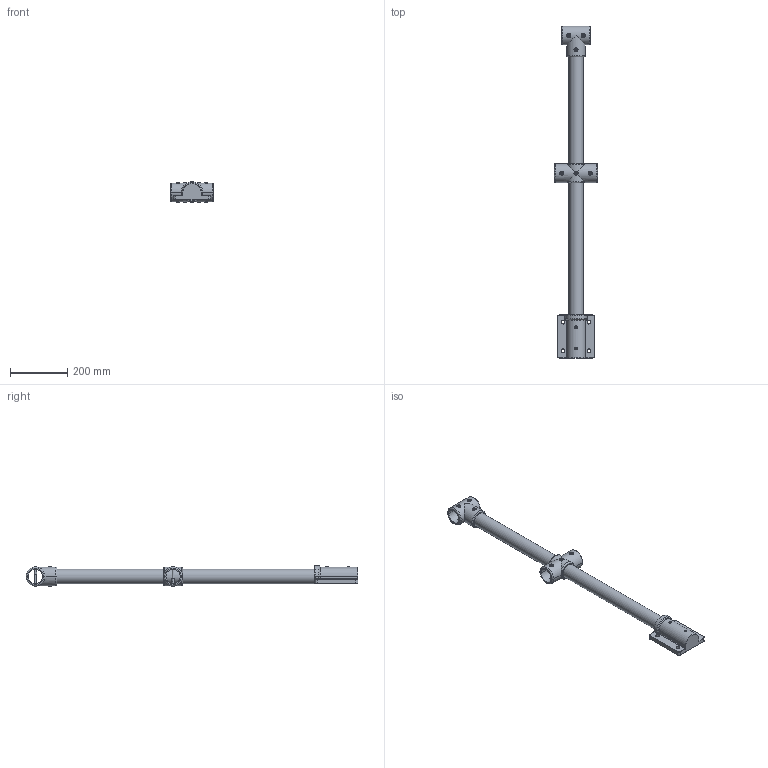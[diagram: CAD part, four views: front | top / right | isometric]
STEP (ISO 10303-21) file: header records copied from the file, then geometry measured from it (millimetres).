
FILE_DESCRIPTION(/* description */ (''),/* implementation_level */ '2;1');
FILE_NAME(/* name */ 'W:\8 Drafting Support\3 Product Drawings\Handrails\3D Models\MHST-03\MHST-03.stp',/* time_stamp */ '2025-03-11T12:06:32+10:00',/* author */ ('Callum'),/* organization */ (''),/* preprocessor_version */ 'ST-DEVELOPER v18.1',/* originating_system */ 'Autodesk Inventor 2022',/* authorisation */ '');
FILE_SCHEMA (('AUTOMOTIVE_DESIGN { 1 0 10303 214 3 1 1 }'));
Length unit declared in the file: millimetre
Products named in the file (14): MHST-03; MHST-03 BASE SKETCH; MH1-Wall Mount-Y; MHST-03-SN; MH3-W CROSS_PH01; MH3-W CROSS; MH3-Wcross connector 1; MH4-CONNECT_PH01; MH4-CONNECT; MH3-Wcross connector; MHR- M6-304; M6x8 Barrel Nut; M6x50 Soc Head Screw; 10G x 22
Assembly tree (21 placements, depth 4):
  MHST-03
    MHST-03 BASE SKETCH
    MH1-Wall Mount-Y
    MHST-03-SN
    MH3-W CROSS_PH01
      MH3-W CROSS
        MH3-Wcross connector 1  x2
      MHR- M6-304  x3
        M6x8 Barrel Nut
        M6x50 Soc Head Screw
    MH4-CONNECT_PH01
      MH4-CONNECT
        MH3-Wcross connector  x2
      MHR- M6-304  x3
        M6x8 Barrel Nut
        M6x50 Soc Head Screw
    10G x 22  x2
Bounding box: 150 x 1158 x 71.5 mm (x, y, z)
Volume: 1495937 mm3; surface area: 517116.4 mm2
Topology: 20 solids, 20 shells, 509 faces, 1235 edges, 815 vertices
Faces by surface type: plane 226, cylinder 168, torus 57, cone 36, bspline 20, sphere 2
Full cylindrical faces by diameter (mm): 3 x14, 3.75 x2, 4.75 x6, 5 x6, 6 x6, 8 x6, 8.5 x12, 9.3 x2, 12 x4, 14 x12, 40 x1, 50 x1
Entity records: 9682 total; most frequent: CARTESIAN_POINT 3142, DIRECTION 1308, ORIENTED_EDGE 1210, EDGE_CURVE 605, AXIS2_PLACEMENT_3D 526, VERTEX_POINT 387, EDGE_LOOP 280, LINE 256
